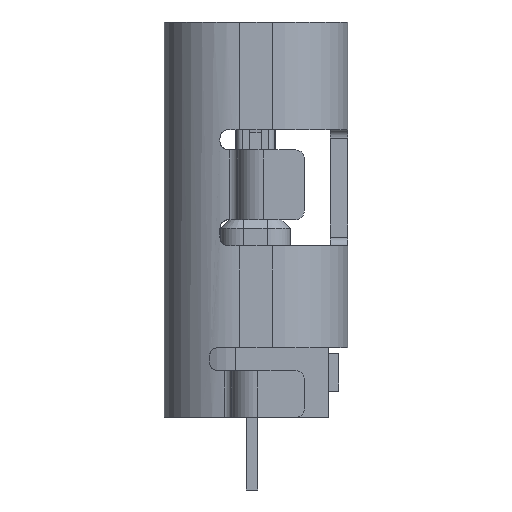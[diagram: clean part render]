
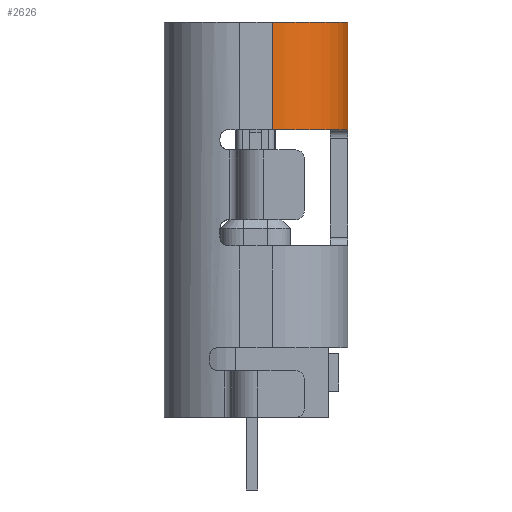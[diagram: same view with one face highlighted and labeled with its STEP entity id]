
A CAD part, left-side view. The second image highlights one B-rep face of the part: STEP entity #2626.
In plain terms, the highlighted cylindrical face has radius 1.3 mm (diameter 2.6 mm), a partial arc.
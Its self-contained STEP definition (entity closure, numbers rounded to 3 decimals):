
#346 = ORIENTED_EDGE ( 'NONE', *, *, #4779, .T. ) ;
#1730 = DIRECTION ( 'NONE',  ( 0., 0., 1. ) ) ;
#1740 = VERTEX_POINT ( 'NONE', #13814 ) ;
#2596 = DIRECTION ( 'NONE',  ( -1., 0., 0. ) ) ;
#2626 = ADVANCED_FACE ( 'NONE', ( #8068 ), #11634, .T. ) ;
#2640 = DIRECTION ( 'NONE',  ( 0., 0., -1. ) ) ;
#3253 = LINE ( 'NONE', #19175, #12268 ) ;
#3267 = VERTEX_POINT ( 'NONE', #9652 ) ;
#3513 = CARTESIAN_POINT ( 'NONE',  ( 4.47, -0.28, 6.8 ) ) ;
#4403 = EDGE_CURVE ( 'NONE', #20188, #3267, #11281, .T. ) ;
#4779 = EDGE_CURVE ( 'NONE', #1740, #6315, #5590, .T. ) ;
#5590 = CIRCLE ( 'NONE', #14302, 1.3 ) ;
#6315 = VERTEX_POINT ( 'NONE', #14658 ) ;
#7548 = ORIENTED_EDGE ( 'NONE', *, *, #22233, .T. ) ;
#7732 = EDGE_LOOP ( 'NONE', ( #7548, #19630, #22414, #346 ) ) ;
#8068 = FACE_OUTER_BOUND ( 'NONE', #7732, .T. ) ;
#9652 = CARTESIAN_POINT ( 'NONE',  ( 3.17, -1.58, 0. ) ) ;
#10499 = DIRECTION ( 'NONE',  ( 0., 0., -1. ) ) ;
#10587 = VECTOR ( 'NONE', #1730, 1000. ) ;
#11281 = CIRCLE ( 'NONE', #21156, 1.3 ) ;
#11634 = CYLINDRICAL_SURFACE ( 'NONE', #23373, 1.3 ) ;
#12268 = VECTOR ( 'NONE', #10499, 1000. ) ;
#12670 = DIRECTION ( 'NONE',  ( -1., 0., 0. ) ) ;
#13008 = DIRECTION ( 'NONE',  ( 0., 0., -1. ) ) ;
#13679 = DIRECTION ( 'NONE',  ( -1., 0., 0. ) ) ;
#13814 = CARTESIAN_POINT ( 'NONE',  ( 4.47, -0.28, 1.85 ) ) ;
#14302 = AXIS2_PLACEMENT_3D ( 'NONE', #18924, #2640, #13679 ) ;
#14658 = CARTESIAN_POINT ( 'NONE',  ( 3.17, -1.58, 1.85 ) ) ;
#16283 = EDGE_CURVE ( 'NONE', #20188, #1740, #21447, .T. ) ;
#18649 = CARTESIAN_POINT ( 'NONE',  ( 4.47, -0.28, 0. ) ) ;
#18883 = CARTESIAN_POINT ( 'NONE',  ( 3.17, -0.28, 6.8 ) ) ;
#18924 = CARTESIAN_POINT ( 'NONE',  ( 3.17, -0.28, 1.85 ) ) ;
#19175 = CARTESIAN_POINT ( 'NONE',  ( 3.17, -1.58, 6.8 ) ) ;
#19630 = ORIENTED_EDGE ( 'NONE', *, *, #4403, .F. ) ;
#20188 = VERTEX_POINT ( 'NONE', #18649 ) ;
#21156 = AXIS2_PLACEMENT_3D ( 'NONE', #23470, #13008, #12670 ) ;
#21447 = LINE ( 'NONE', #3513, #10587 ) ;
#22233 = EDGE_CURVE ( 'NONE', #6315, #3267, #3253, .T. ) ;
#22414 = ORIENTED_EDGE ( 'NONE', *, *, #16283, .T. ) ;
#22560 = DIRECTION ( 'NONE',  ( 0., 0., -1. ) ) ;
#23373 = AXIS2_PLACEMENT_3D ( 'NONE', #18883, #22560, #2596 ) ;
#23470 = CARTESIAN_POINT ( 'NONE',  ( 3.17, -0.28, 0. ) ) ;
